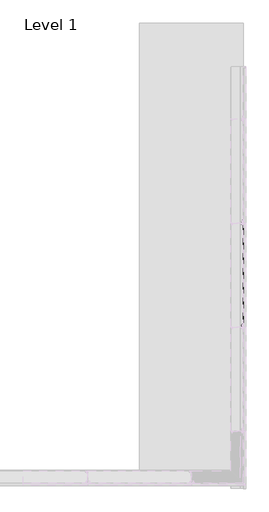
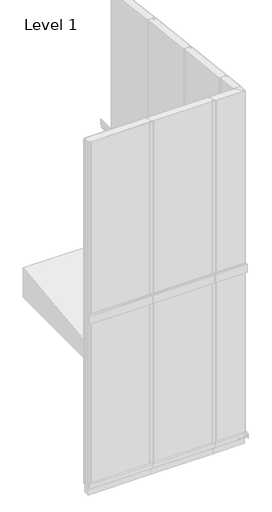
# One storey, part 7 of 12: 1 plate.
"""IFC4 building model written with IfcOpenShell, lengths in millimetres."""

from ifc_helpers import new_model, si_unit, frame, origin, place, context, project, spatial, polyline, circle_curve, ellipse_curve, element, save
from ifc_brep_helpers import plane_surface, cylinder_surface, revolved_surface, advanced_brep

model = new_model("IFC4")

# Units and contexts
model_context = context("Model", 3, world=origin())
ifc_project = project(units=[si_unit("LENGTHUNIT", "METRE", prefix="MILLI")], contexts=[model_context])

# Site, building, storey
site = spatial("IfcSite", under=ifc_project)
building = spatial("IfcBuilding", under=site)
storey = spatial("IfcBuildingStorey", under=building, Name="Level 1", Elevation=0.0)

# Plate
placement = place(None, origin())
element("IfcPlate", 1, ObjectType="TR_C_V_FHL_Panel : 120/RAL9006/RAL9002", at=placement, inside=storey, context=model_context, shape_type="AdvancedBrep", body=[
    advanced_brep(
    [(-3994.9155057, 6494.7075287, 2980.0), (-3994.9155057, 5506.1698321, 2980.0), (-3995.4720028, 5504.8263292, 2980.0), (-4000.2954046, 5500.0029273, 2980.0), (-4001.1155057, 5498.0230283, 2980.0), (-4001.1155057, 5495.2069118, 2980.0), (-4003.0155057, 5493.3069118, 2980.0), (-4008.9155057, 5493.3069118, 2980.0), (-4011.7155057, 5490.5069118, 2980.0), (-4011.7155057, 5471.3719831, 2980.0), (-4010.6206993, 5458.8582889, 2980.0), (-4002.8538462, 5457.9046392, 2980.0), (-4002.544232, 5458.8038241, 2980.0), (-4003.3006468, 5459.0642787, 2980.0), (-4003.610261, 5458.1650937, 2980.0), (-4009.8237435, 5458.9280134, 2980.0), (-4010.9155057, 5471.4069118, 2980.0), (-4010.9155057, 5490.5069118, 2980.0), (-4008.9155057, 5492.5069118, 2980.0), (-4003.0155057, 5492.5069118, 2980.0), (-4000.3155057, 5495.2069118, 2980.0), (-4000.3155057, 5498.0230283, 2980.0), (-3999.7297192, 5499.4372419, 2980.0), (-3994.9063173, 5504.2606438, 2980.0), (-3994.1155057, 5506.1698321, 2980.0), (-3994.1155057, 6494.7075287, 2980.0), (-3994.9741101, 6496.6821837, 2980.0), (-3996.9197088, 6498.4964839, 2980.0), (-4000.1155057, 6497.1069118, 2980.0), (-4000.1155057, 6464.7801836, 2980.0), (-4000.2517092, 6463.9662632, 2980.0), (-4002.5909089, 6457.1727339, 2980.0), (-4010.5519334, 6458.1502248, 2980.0), (-4011.4158468, 6468.0248012, 2980.0), (-4013.9063336, 6470.3069118, 2980.0), (-4014.9155057, 6470.3069118, 2980.0), (-4014.9155057, 6469.5069118, 2980.0), (-4013.9063336, 6469.5069118, 2980.0), (-4012.2128026, 6467.9550766, 2980.0), (-4011.3488891, 6458.0805002, 2980.0), (-4001.8344941, 6456.9122794, 2980.0), (-3999.4952944, 6463.7058087, 2980.0), (-3999.3155057, 6464.7801836, 2980.0), (-3999.3155057, 6497.1069118, 2980.0), (-3997.4653075, 6497.9114009, 2980.0), (-3995.5197088, 6496.0971008, 2980.0), (-3994.1155057, 5506.1698321, 314.7166186), (-3994.1155057, 6494.7075287, 429.6628624), (-3994.9155057, 6494.7075287, 429.6628624), (-3994.9155057, 5506.1698321, 314.7166186), (-3995.4720028, 5504.8263292, 314.5603973), (-4000.2954046, 5500.0029273, 313.9995367), (-4001.1155057, 5498.0230283, 313.7693158), (-4001.1155057, 5495.2069118, 313.4418604), (-4003.0155057, 5493.3069118, 313.2209302), (-4008.9155057, 5493.3069118, 313.2209302), (-4011.7155057, 5490.5069118, 312.8953488), (-4011.7155057, 5471.3719831, 310.6703571), (-4010.6206993, 5458.8582889, 309.2152764), (-4002.8538462, 5457.9046392, 309.1043869), (-4002.544232, 5458.8038241, 309.2089433), (-4003.3006468, 5459.0642787, 309.2392287), (-4003.610261, 5458.1650937, 309.1346723), (-4009.8237435, 5458.9280134, 309.2233839), (-4010.9155057, 5471.4069118, 310.6744186), (-4010.9155057, 5490.5069118, 312.8953488), (-4008.9155057, 5492.5069118, 313.1279069), (-4003.0155057, 5492.5069118, 313.1279069), (-4000.3155057, 5495.2069118, 313.4418604), (-4000.3155057, 5498.0230283, 313.7693158), (-3999.7297192, 5499.4372419, 313.9337593), (-3994.9063173, 5504.2606438, 314.49462), (-3994.9741101, 6496.6821837, 429.8924734), (-3996.9197088, 6498.4964839, 430.1034386), (-4000.1155057, 6497.1069118, 429.9418604), (-4000.1155057, 6464.7801836, 426.1829385), (-4000.2517092, 6463.9662632, 426.0882966), (-4002.5909089, 6457.1727339, 425.2983514), (-4010.5519334, 6458.1502248, 425.4120131), (-4011.4158468, 6468.0248012, 426.5602197), (-4013.9063336, 6470.3069118, 426.8255814), (-4014.9155057, 6470.3069118, 426.8255814), (-4014.9155057, 6469.5069118, 426.7325581), (-4013.9063336, 6469.5069118, 426.7325581), (-4012.2128026, 6467.9550766, 426.5521121), (-4011.3488891, 6458.0805002, 425.4039056), (-4001.8344941, 6456.9122794, 425.268066), (-3999.4952944, 6463.7058087, 426.0580112), (-3999.3155057, 6464.7801836, 426.1829385), (-3999.3155057, 6497.1069118, 429.9418604), (-3997.4653075, 6497.9114009, 430.0354057), (-3995.5197088, 6496.0971008, 429.8244405)],
    [
        (0, 1),
        (1, 2, circle_curve(frame((-3996.8155057, 5506.1698321, 2980.0), z_axis=(0.0, 0.0, -1.0), x_axis=(0.0, -1.0, 0.0)), 1.9)),
        (2, 3),
        (3, 4, circle_curve(frame((-3998.3155057, 5498.0230283, 2980.0), z_axis=(0.0, 0.0, 1.0), x_axis=(0.0, -1.0, 0.0)), 2.8)),
        (4, 5),
        (5, 6, circle_curve(frame((-4003.0155057, 5495.2069118, 2980.0), z_axis=(0.0, 0.0, -1.0), x_axis=(0.0, -1.0, 0.0)), 1.9)),
        (6, 7),
        (7, 8, circle_curve(frame((-4008.9155057, 5490.5069118, 2980.0), z_axis=(0.0, 0.0, 1.0), x_axis=(0.0, -1.0, 0.0)), 2.8)),
        (8, 9),
        (9, 10),
        (10, 11, circle_curve(frame((-4006.6359205, 5459.2069118, 2980.0), z_axis=(0.0, 0.0, 1.0), x_axis=(0.0, -1.0, 0.0)), 4.0)),
        (11, 12),
        (12, 13),
        (13, 14),
        (14, 15, circle_curve(frame((-4006.6359205, 5459.2069118, 2980.0), z_axis=(0.0, 0.0, -1.0), x_axis=(0.0, -1.0, 0.0)), 3.2)),
        (15, 16),
        (16, 17),
        (17, 18, circle_curve(frame((-4008.9155057, 5490.5069118, 2980.0), z_axis=(0.0, 0.0, -1.0), x_axis=(0.0, -1.0, 0.0)), 2.0)),
        (18, 19),
        (19, 20, circle_curve(frame((-4003.0155057, 5495.2069118, 2980.0), z_axis=(0.0, 0.0, 1.0), x_axis=(0.0, -1.0, 0.0)), 2.7)),
        (20, 21),
        (21, 22, circle_curve(frame((-3998.3155057, 5498.0230283, 2980.0), z_axis=(0.0, 0.0, -1.0), x_axis=(0.0, -1.0, 0.0)), 2.0)),
        (22, 23),
        (23, 24, circle_curve(frame((-3996.8155057, 5506.1698321, 2980.0), z_axis=(0.0, 0.0, 1.0), x_axis=(0.0, -1.0, 0.0)), 2.7)),
        (24, 25),
        (25, 26, circle_curve(frame((-3996.8155057, 6494.7075287, 2980.0), z_axis=(0.0, 0.0, 1.0), x_axis=(0.0, -1.0, 0.0)), 2.7)),
        (26, 27),
        (27, 28, circle_curve(frame((-3998.2155057, 6497.1069118, 2980.0), z_axis=(0.0, 0.0, 1.0), x_axis=(0.0, -1.0, 0.0)), 1.9)),
        (28, 29),
        (29, 30, circle_curve(frame((-4002.6155057, 6464.7801836, 2980.0), z_axis=(0.0, 0.0, -1.0), x_axis=(0.0, -1.0, 0.0)), 2.5)),
        (30, 31),
        (31, 32, circle_curve(frame((-4006.4675351, 6458.5075634, 2980.0), z_axis=(0.0, 0.0, -1.0), x_axis=(0.0, -1.0, 0.0)), 4.1)),
        (32, 33),
        (33, 34, circle_curve(frame((-4013.9063336, 6467.8069118, 2980.0), z_axis=(0.0, 0.0, 1.0), x_axis=(0.0, -1.0, 0.0)), 2.5)),
        (34, 35),
        (35, 36),
        (36, 37),
        (37, 38, circle_curve(frame((-4013.9063336, 6467.8069118, 2980.0), z_axis=(0.0, 0.0, -1.0), x_axis=(0.0, -1.0, 0.0)), 1.7)),
        (38, 39),
        (39, 40, circle_curve(frame((-4006.4675351, 6458.5075634, 2980.0), z_axis=(0.0, 0.0, 1.0), x_axis=(0.0, -1.0, 0.0)), 4.9)),
        (40, 41),
        (41, 42, circle_curve(frame((-4002.6155057, 6464.7801836, 2980.0), z_axis=(0.0, 0.0, 1.0), x_axis=(0.0, -1.0, 0.0)), 3.3)),
        (42, 43),
        (43, 44, circle_curve(frame((-3998.2155057, 6497.1069118, 2980.0), z_axis=(0.0, 0.0, -1.0), x_axis=(0.0, -1.0, 0.0)), 1.1)),
        (44, 45),
        (45, 0, circle_curve(frame((-3996.8155057, 6494.7075287, 2980.0), z_axis=(0.0, 0.0, -1.0), x_axis=(0.0, -1.0, 0.0)), 1.9)),
        (24, 46),
        (46, 47),
        (47, 25),
        (0, 48),
        (48, 49),
        (49, 1),
        (49, 50, ellipse_curve(frame((-3996.8155057, 5506.1698321, 314.7166186), z_axis=(0.0, 0.11550085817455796, -0.9933073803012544), x_axis=(0.0, -0.9933073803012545, -0.11550085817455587)), 1.9128017, 1.9)),
        (50, 2),
        (50, 51),
        (51, 3),
        (51, 52, ellipse_curve(frame((-3998.3155057, 5498.0230283, 313.7693158), z_axis=(0.0, -0.11550085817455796, 0.9933073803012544), x_axis=(0.0, 0.9933073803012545, 0.11550085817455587)), 2.8188656, 2.8)),
        (52, 4),
        (52, 53),
        (53, 5),
        (53, 54, ellipse_curve(frame((-4003.0155057, 5495.2069118, 313.4418604), z_axis=(0.0, 0.11550085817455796, -0.9933073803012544), x_axis=(0.0, -0.9933073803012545, -0.11550085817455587)), 1.9128017, 1.9)),
        (54, 6),
        (54, 55),
        (55, 7),
        (55, 56, ellipse_curve(frame((-4008.9155057, 5490.5069118, 312.8953488), z_axis=(0.0, -0.11550085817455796, 0.9933073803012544), x_axis=(0.0, 0.9933073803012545, 0.11550085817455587)), 2.8188656, 2.8)),
        (56, 8),
        (56, 57),
        (57, 9),
        (57, 58),
        (58, 10),
        (58, 59, ellipse_curve(frame((-4006.6359205, 5459.2069118, 309.2558139), z_axis=(0.0, -0.11550085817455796, 0.9933073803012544), x_axis=(0.0, 0.9933073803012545, 0.11550085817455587)), 4.0269509, 4.0)),
        (59, 11),
        (59, 60),
        (60, 12),
        (60, 61),
        (61, 13),
        (61, 62),
        (62, 14),
        (62, 63, ellipse_curve(frame((-4006.6359205, 5459.2069118, 309.2558139), z_axis=(0.0, 0.11550085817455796, -0.9933073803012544), x_axis=(0.0, -0.9933073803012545, -0.11550085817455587)), 3.2215607, 3.2)),
        (63, 15),
        (63, 64),
        (64, 16),
        (64, 65),
        (65, 17),
        (65, 66, ellipse_curve(frame((-4008.9155057, 5490.5069118, 312.8953488), z_axis=(0.0, 0.11550085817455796, -0.9933073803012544), x_axis=(0.0, -0.9933073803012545, -0.11550085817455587)), 2.0134754, 2.0)),
        (66, 18),
        (66, 67),
        (67, 19),
        (67, 68, ellipse_curve(frame((-4003.0155057, 5495.2069118, 313.4418604), z_axis=(0.0, -0.11550085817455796, 0.9933073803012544), x_axis=(0.0, 0.9933073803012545, 0.11550085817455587)), 2.7181918, 2.7)),
        (68, 20),
        (68, 69),
        (69, 21),
        (69, 70, ellipse_curve(frame((-3998.3155057, 5498.0230283, 313.7693158), z_axis=(0.0, 0.11550085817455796, -0.9933073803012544), x_axis=(0.0, -0.9933073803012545, -0.11550085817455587)), 2.0134754, 2.0)),
        (70, 22),
        (70, 71),
        (71, 23),
        (71, 46, ellipse_curve(frame((-3996.8155057, 5506.1698321, 314.7166186), z_axis=(0.0, -0.11550085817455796, 0.9933073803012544), x_axis=(0.0, 0.9933073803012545, 0.11550085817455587)), 2.7181918, 2.7)),
        (47, 72, ellipse_curve(frame((-3996.8155057, 6494.7075287, 429.6628624), z_axis=(0.0, -0.11550085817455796, 0.9933073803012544), x_axis=(0.0, 0.9933073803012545, 0.11550085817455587)), 2.7181918, 2.7)),
        (72, 26),
        (72, 73),
        (73, 27),
        (73, 74, ellipse_curve(frame((-3998.2155057, 6497.1069118, 429.9418604), z_axis=(0.0, -0.11550085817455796, 0.9933073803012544), x_axis=(0.0, 0.9933073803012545, 0.11550085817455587)), 1.9128017, 1.9)),
        (74, 28),
        (74, 75),
        (75, 29),
        (75, 76, ellipse_curve(frame((-4002.6155057, 6464.7801836, 426.1829385), z_axis=(0.0, 0.11550085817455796, -0.9933073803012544), x_axis=(0.0, -0.9933073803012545, -0.11550085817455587)), 2.5168443, 2.5)),
        (76, 30),
        (76, 77),
        (77, 31),
        (77, 78, ellipse_curve(frame((-4006.4675351, 6458.5075634, 425.4535641), z_axis=(0.0, 0.11550085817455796, -0.9933073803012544), x_axis=(0.0, -0.9933073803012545, -0.11550085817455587)), 4.1276246, 4.1)),
        (78, 32),
        (78, 79),
        (79, 33),
        (79, 80, ellipse_curve(frame((-4013.9063336, 6467.8069118, 426.5348837), z_axis=(0.0, -0.11550085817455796, 0.9933073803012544), x_axis=(0.0, 0.9933073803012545, 0.11550085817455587)), 2.5168443, 2.5)),
        (80, 34),
        (80, 81),
        (81, 35),
        (81, 82),
        (82, 36),
        (82, 83),
        (83, 37),
        (83, 84, ellipse_curve(frame((-4013.9063336, 6467.8069118, 426.5348837), z_axis=(0.0, 0.11550085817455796, -0.9933073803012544), x_axis=(0.0, -0.9933073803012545, -0.11550085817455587)), 1.7114541, 1.7)),
        (84, 38),
        (84, 85),
        (85, 39),
        (85, 86, ellipse_curve(frame((-4006.4675351, 6458.5075634, 425.4535641), z_axis=(0.0, -0.11550085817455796, 0.9933073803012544), x_axis=(0.0, 0.9933073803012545, 0.11550085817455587)), 4.9330148, 4.9)),
        (86, 40),
        (86, 87),
        (87, 41),
        (87, 88, ellipse_curve(frame((-4002.6155057, 6464.7801836, 426.1829385), z_axis=(0.0, -0.11550085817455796, 0.9933073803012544), x_axis=(0.0, 0.9933073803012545, 0.11550085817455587)), 3.3222345, 3.3)),
        (88, 42),
        (88, 89),
        (89, 43),
        (89, 90, ellipse_curve(frame((-3998.2155057, 6497.1069118, 429.9418604), z_axis=(0.0, 0.11550085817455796, -0.9933073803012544), x_axis=(0.0, -0.9933073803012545, -0.11550085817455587)), 1.1074115, 1.1)),
        (90, 44),
        (90, 91),
        (91, 45),
        (91, 48, ellipse_curve(frame((-3996.8155057, 6494.7075287, 429.6628624), z_axis=(0.0, 0.11550085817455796, -0.9933073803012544), x_axis=(0.0, -0.9933073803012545, -0.11550085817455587)), 1.9128017, 1.9)),
    ],
    [
        plane_surface(frame((-3994.9155057, 5485.2850853, 2980.0), z_axis=(0.0, 0.0, 1.0), x_axis=(0.0, -1.0, 0.0))),
        plane_surface(frame((-3994.1155057, 5506.1698321, 2980.0), z_axis=(1.0, 0.0, 0.0), x_axis=(0.0, 0.0, -1.0))),
        plane_surface(frame((-3994.9155057, 6494.7075287, 2980.0), z_axis=(-1.0, 0.0, 0.0), x_axis=(0.0, 0.0, -1.0))),
        revolved_surface(polyline([(-3996.8155057, 5504.269832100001, 314.4956883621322), (-3996.8155057, 5504.269832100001, 2980.0)]), (-3996.8155057, 5506.1698321, 150.0), (0.0, 0.0, -1.0)),
        plane_surface(frame((-3995.4720028, 5504.8263292, 2980.0), z_axis=(-0.7071067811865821, 0.7071067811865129, 0.0), x_axis=(0.0, 0.0, -1.0))),
        cylinder_surface(frame((-3998.3155057, 5498.0230283, 150.0), z_axis=(0.0, 0.0, 1.0), x_axis=(0.0, -1.0, 0.0)), 2.8),
        plane_surface(frame((-4001.1155057, 5498.0230283, 2980.0), z_axis=(-1.0, 0.0, 0.0), x_axis=(0.0, 0.0, -1.0))),
        revolved_surface(polyline([(-4003.0155057, 5493.3069118, 313.2209301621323), (-4003.0155057, 5493.3069118, 2980.0)]), (-4003.0155057, 5495.2069118, 150.0), (0.0, 0.0, -1.0)),
        plane_surface(frame((-4003.0155057, 5493.3069118, 2980.0), z_axis=(0.0, 1.0, 0.0), x_axis=(0.0, 0.0, -1.0))),
        cylinder_surface(frame((-4008.9155057, 5490.5069118, 150.0), z_axis=(0.0, 0.0, 1.0), x_axis=(0.0, -1.0, 0.0)), 2.8),
        plane_surface(frame((-4011.7155057, 5490.5069118, 2980.0), z_axis=(-1.0, 0.0, 0.0), x_axis=(0.0, 0.0, -1.0))),
        plane_surface(frame((-4011.7155057, 5471.3719831, 2980.0), z_axis=(-0.9961946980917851, -0.08715574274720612, 0.0), x_axis=(0.0, 0.0, -1.0))),
        cylinder_surface(frame((-4006.6359205, 5459.2069118, 150.0), z_axis=(0.0, 0.0, 1.0), x_axis=(0.0, -1.0, 0.0)), 4.0),
        plane_surface(frame((-4002.8538462, 5457.9046392, 2980.0), z_axis=(0.9455185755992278, -0.32556815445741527, 0.0), x_axis=(0.0, 0.0, -1.0))),
        plane_surface(frame((-4002.544232, 5458.8038241, 2980.0), z_axis=(0.325568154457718, 0.9455185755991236, 0.0), x_axis=(0.0, 0.0, -1.0))),
        plane_surface(frame((-4003.3006468, 5459.0642787, 2980.0), z_axis=(-0.9455185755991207, 0.32556815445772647, 0.0), x_axis=(0.0, 0.0, -1.0))),
        revolved_surface(polyline([(-4006.6359205, 5456.0069118, 308.88372087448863), (-4006.6359205, 5456.0069118, 2980.0)]), (-4006.6359205, 5459.2069118, 150.0), (0.0, 0.0, -1.0)),
        plane_surface(frame((-4009.8237435, 5458.9280134, 2980.0), z_axis=(0.9961946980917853, 0.08715574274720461, 0.0), x_axis=(0.0, 0.0, -1.0))),
        plane_surface(frame((-4010.9155057, 5471.4069118, 2980.0), z_axis=(1.0, 0.0, 0.0), x_axis=(0.0, 0.0, -1.0))),
        revolved_surface(polyline([(-4008.9155057, 5488.5069118, 312.66279066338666), (-4008.9155057, 5488.5069118, 2980.0)]), (-4008.9155057, 5490.5069118, 150.0), (0.0, 0.0, -1.0)),
        plane_surface(frame((-4008.9155057, 5492.5069118, 2980.0), z_axis=(0.0, -1.0, 0.0), x_axis=(0.0, 0.0, -1.0))),
        cylinder_surface(frame((-4003.0155057, 5495.2069118, 150.0), z_axis=(0.0, 0.0, 1.0), x_axis=(0.0, -1.0, 0.0)), 2.7),
        plane_surface(frame((-4000.3155057, 5495.2069118, 2980.0), z_axis=(1.0, 0.0, 0.0), x_axis=(0.0, 0.0, -1.0))),
        revolved_surface(polyline([(-3998.3155057, 5496.0230283, 313.53675766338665), (-3998.3155057, 5496.0230283, 2980.0)]), (-3998.3155057, 5498.0230283, 150.0), (0.0, 0.0, -1.0)),
        plane_surface(frame((-3999.7297192, 5499.4372419, 2980.0), z_axis=(0.7071067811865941, -0.707106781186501, 0.0), x_axis=(0.0, 0.0, -1.0))),
        cylinder_surface(frame((-3996.8155057, 5506.1698321, 150.0), z_axis=(0.0, 0.0, 1.0), x_axis=(0.0, -1.0, 0.0)), 2.7),
        cylinder_surface(frame((-3996.8155057, 6494.7075287, 150.0), z_axis=(0.0, 0.0, 1.0), x_axis=(0.0, -1.0, 0.0)), 2.7),
        plane_surface(frame((-3994.9741101, 6496.6821837, 2980.0), z_axis=(0.6819983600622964, 0.7313537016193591, 0.0), x_axis=(0.0, 0.0, -1.0))),
        cylinder_surface(frame((-3998.2155057, 6497.1069118, 150.0), z_axis=(0.0, 0.0, 1.0), x_axis=(0.0, -1.0, 0.0)), 1.9),
        plane_surface(frame((-4000.1155057, 6497.1069118, 2980.0), z_axis=(-1.0, 0.0, 0.0), x_axis=(0.0, 0.0, -1.0))),
        revolved_surface(polyline([(-4002.6155057, 6462.2801836, 425.8922408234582), (-4002.6155057, 6462.2801836, 2980.0)]), (-4002.6155057, 6464.7801836, 150.0), (0.0, 0.0, -1.0)),
        plane_surface(frame((-4000.2517092, 6463.9662632, 2980.0), z_axis=(-0.9455185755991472, 0.3255681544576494, 0.0), x_axis=(0.0, 0.0, -1.0))),
        revolved_surface(polyline([(-4006.4675351, 6454.4075634, 424.9768199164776), (-4006.4675351, 6454.4075634, 2980.0)]), (-4006.4675351, 6458.5075634, 150.0), (0.0, 0.0, -1.0)),
        plane_surface(frame((-4010.5519334, 6458.1502248, 2980.0), z_axis=(0.9961946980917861, 0.08715574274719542, 0.0), x_axis=(0.0, 0.0, -1.0))),
        cylinder_surface(frame((-4013.9063336, 6467.8069118, 150.0), z_axis=(0.0, 0.0, 1.0), x_axis=(0.0, -1.0, 0.0)), 2.5),
        plane_surface(frame((-4013.9063336, 6470.3069118, 2980.0), z_axis=(0.0, 1.0, 0.0), x_axis=(0.0, 0.0, -1.0))),
        plane_surface(frame((-4014.9155057, 6470.3069118, 2980.0), z_axis=(-1.0, 0.0, 0.0), x_axis=(0.0, 0.0, -1.0))),
        plane_surface(frame((-4014.9155057, 6469.5069118, 2980.0), z_axis=(0.0, -1.0, 0.0), x_axis=(0.0, 0.0, -1.0))),
        revolved_surface(polyline([(-4013.9063336, 6466.1069118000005, 426.3372092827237), (-4013.9063336, 6466.1069118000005, 2980.0)]), (-4013.9063336, 6467.8069118, 150.0), (0.0, 0.0, -1.0)),
        plane_surface(frame((-4012.2128026, 6467.9550766, 2980.0), z_axis=(-0.9961946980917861, -0.08715574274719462, 0.0), x_axis=(0.0, 0.0, -1.0))),
        cylinder_surface(frame((-4006.4675351, 6458.5075634, 150.0), z_axis=(0.0, 0.0, 1.0), x_axis=(0.0, -1.0, 0.0)), 4.9),
        plane_surface(frame((-4001.8344941, 6456.9122794, 2980.0), z_axis=(0.9455185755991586, -0.3255681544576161, 0.0), x_axis=(0.0, 0.0, -1.0))),
        cylinder_surface(frame((-4002.6155057, 6464.7801836, 150.0), z_axis=(0.0, 0.0, 1.0), x_axis=(0.0, -1.0, 0.0)), 3.3),
        plane_surface(frame((-3999.3155057, 6464.7801836, 2980.0), z_axis=(1.0, 0.0, 0.0), x_axis=(0.0, 0.0, -1.0))),
        revolved_surface(polyline([(-3998.2155057, 6496.006911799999, 429.8139534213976), (-3998.2155057, 6496.006911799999, 2980.0)]), (-3998.2155057, 6497.1069118, 150.0), (0.0, 0.0, -1.0)),
        plane_surface(frame((-3997.4653075, 6497.9114009, 2980.0), z_axis=(-0.6819983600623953, -0.7313537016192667, 0.0), x_axis=(0.0, 0.0, -1.0))),
        revolved_surface(polyline([(-3996.8155057, 6492.8075287, 429.4419321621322), (-3996.8155057, 6492.8075287, 2980.0)]), (-3996.8155057, 6494.7075287, 150.0), (0.0, 0.0, -1.0)),
        plane_surface(frame((-3994.1155057, 6239.6069121, 400.0), z_axis=(0.0, 0.11550085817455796, -0.9933073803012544), x_axis=(0.0, 0.9933073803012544, 0.11550085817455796))),
    ],
    [
        (0, [[1, 2, 3, 4, 5, 6, 7, 8, 9, 10, 11, 12, 13, 14, 15, 16, 17, 18, 19, 20, 21, 22, 23, 24, 25, 26, 27, 28, 29, 30, 31, 32, 33, 34, 35, 36, 37, 38, 39, 40, 41, 42, 43, 44, 45, 46]]),
        (1, [[-25, 47, 48, 49]]),
        (2, [[-1, 50, 51, 52]]),
        (3, [[-2, -52, 53, 54]]),
        (4, [[-3, -54, 55, 56]]),
        (5, [[-4, -56, 57, 58]]),
        (6, [[-5, -58, 59, 60]]),
        (7, [[-6, -60, 61, 62]]),
        (8, [[-7, -62, 63, 64]]),
        (9, [[-8, -64, 65, 66]]),
        (10, [[-9, -66, 67, 68]]),
        (11, [[-10, -68, 69, 70]]),
        (12, [[-11, -70, 71, 72]]),
        (13, [[-12, -72, 73, 74]]),
        (14, [[-13, -74, 75, 76]]),
        (15, [[-14, -76, 77, 78]]),
        (16, [[-15, -78, 79, 80]]),
        (17, [[-16, -80, 81, 82]]),
        (18, [[-17, -82, 83, 84]]),
        (19, [[-18, -84, 85, 86]]),
        (20, [[-19, -86, 87, 88]]),
        (21, [[-20, -88, 89, 90]]),
        (22, [[-21, -90, 91, 92]]),
        (23, [[-22, -92, 93, 94]]),
        (24, [[-23, -94, 95, 96]]),
        (25, [[-24, -96, 97, -47]]),
        (26, [[-26, -49, 98, 99]]),
        (27, [[-27, -99, 100, 101]]),
        (28, [[-28, -101, 102, 103]]),
        (29, [[-29, -103, 104, 105]]),
        (30, [[-30, -105, 106, 107]]),
        (31, [[-31, -107, 108, 109]]),
        (32, [[-32, -109, 110, 111]]),
        (33, [[-33, -111, 112, 113]]),
        (34, [[-34, -113, 114, 115]]),
        (35, [[-35, -115, 116, 117]]),
        (36, [[-36, -117, 118, 119]]),
        (37, [[-37, -119, 120, 121]]),
        (38, [[-38, -121, 122, 123]]),
        (39, [[-39, -123, 124, 125]]),
        (40, [[-40, -125, 126, 127]]),
        (41, [[-41, -127, 128, 129]]),
        (42, [[-42, -129, 130, 131]]),
        (43, [[-43, -131, 132, 133]]),
        (44, [[-44, -133, 134, 135]]),
        (45, [[-45, -135, 136, 137]]),
        (46, [[-46, -137, 138, -50]]),
        (47, [[-48, -97, -95, -93, -91, -89, -87, -85, -83, -81, -79, -77, -75, -73, -71, -69, -67, -65, -63, -61, -59, -57, -55, -53, -51, -138, -136, -134, -132, -130, -128, -126, -124, -122, -120, -118, -116, -114, -112, -110, -108, -106, -104, -102, -100, -98]]),
    ],
),
    advanced_brep(
    [(-4113.3155057, 6449.7069118, 2980.0), (-4113.3155057, 5479.7850864, 2980.0), (-4112.6711406, 5478.2294515, 2980.0), (-4108.2820533, 5473.8403642, 2980.0), (-4107.3155057, 5471.5069118, 2980.0), (-4107.3155057, 5469.6069118, 2980.0), (-4011.5610819, 5469.6069118, 2980.0), (-4011.7155057, 5471.3719831, 2980.0), (-4011.7155057, 5490.5069118, 2980.0), (-4008.9155057, 5493.3069118, 2980.0), (-4003.0155057, 5493.3069118, 2980.0), (-4001.1155057, 5495.2069118, 2980.0), (-4001.1155057, 5498.0230283, 2980.0), (-4000.2954046, 5500.0029273, 2980.0), (-3995.4720028, 5504.8263292, 2980.0), (-3994.9155057, 5506.1698321, 2980.0), (-3994.9155057, 6453.6075634, 2980.0), (-4006.4675351, 6453.6075634, 2980.0), (-4011.3488891, 6458.0805002, 2980.0), (-4012.2128026, 6467.9550766, 2980.0), (-4013.9063336, 6469.5069118, 2980.0), (-4014.9155057, 6469.6069118, 2980.0), (-4088.9755057, 6469.6069118, 2980.0), (-4088.9755057, 6461.7069118, 2980.0), (-4096.5080645, 6461.7069118, 2980.0), (-4099.4132474, 6459.2691739, 2980.0), (-4100.4800727, 6453.2189071, 2980.0), (-4104.6655057, 6449.7069118, 2980.0), (-4113.3155057, 6449.7069118, 424.4302325), (-4113.3155057, 5479.7850864, 311.6486249), (-4112.6711406, 5478.2294515, 311.4677371), (-4108.2820533, 5473.8403642, 310.9573781), (-4107.3155057, 5471.5069118, 310.6860465), (-4107.3155057, 5469.6069118, 310.4651162), (-4011.5610819, 5469.6069118, 310.4651162), (-4011.7155057, 5471.3719831, 310.6703571), (-4011.7155057, 5490.5069118, 312.8953488), (-4008.9155057, 5493.3069118, 313.2209302), (-4003.0155057, 5493.3069118, 313.2209302), (-4001.1155057, 5495.2069118, 313.4418604), (-4001.1155057, 5498.0230283, 313.7693158), (-4000.2954046, 5500.0029273, 313.9995367), (-3995.4720028, 5504.8263292, 314.5603973), (-3994.9155057, 5506.1698321, 314.7166186), (-3994.9155057, 6453.6075634, 424.8837967), (-4006.4675351, 6453.6075634, 424.8837967), (-4011.3488891, 6458.0805002, 425.4039056), (-4012.2128026, 6467.9550766, 426.5521121), (-4013.9063336, 6469.5069118, 426.7325581), (-4014.9155057, 6469.6069118, 426.744186), (-4088.9755057, 6469.6069118, 426.744186), (-4088.9755057, 6461.7069118, 425.8255814), (-4096.5080645, 6461.7069118, 425.8255814), (-4099.4132474, 6459.2691739, 425.5421235), (-4100.4800727, 6453.2189071, 424.8386041), (-4104.6655057, 6449.7069118, 424.4302325)],
    [
        (0, 1),
        (1, 2, circle_curve(frame((-4111.1155057, 5479.7850864, 2980.0), z_axis=(0.0, 0.0, 1.0), x_axis=(0.0, -1.0, 0.0)), 2.2)),
        (2, 3),
        (3, 4, circle_curve(frame((-4110.6155057, 5471.5069118, 2980.0), z_axis=(0.0, 0.0, -1.0), x_axis=(0.0, -1.0, 0.0)), 3.3)),
        (4, 5),
        (5, 6),
        (6, 7),
        (7, 8),
        (8, 9, circle_curve(frame((-4008.9155057, 5490.5069118, 2980.0), z_axis=(0.0, 0.0, -1.0), x_axis=(0.0, -1.0, 0.0)), 2.8)),
        (9, 10),
        (10, 11, circle_curve(frame((-4003.0155057, 5495.2069118, 2980.0), z_axis=(0.0, 0.0, 1.0), x_axis=(0.0, -1.0, 0.0)), 1.9)),
        (11, 12),
        (12, 13, circle_curve(frame((-3998.3155057, 5498.0230283, 2980.0), z_axis=(0.0, 0.0, -1.0), x_axis=(0.0, -1.0, 0.0)), 2.8)),
        (13, 14),
        (14, 15, circle_curve(frame((-3996.8155057, 5506.1698321, 2980.0), z_axis=(0.0, 0.0, 1.0), x_axis=(0.0, -1.0, 0.0)), 1.9)),
        (15, 16),
        (16, 17),
        (17, 18, circle_curve(frame((-4006.4675351, 6458.5075634, 2980.0), z_axis=(0.0, 0.0, -1.0), x_axis=(0.0, -1.0, 0.0)), 4.9)),
        (18, 19),
        (19, 20, circle_curve(frame((-4013.9063336, 6467.8069118, 2980.0), z_axis=(0.0, 0.0, 1.0), x_axis=(0.0, -1.0, 0.0)), 1.7)),
        (20, 21),
        (21, 22),
        (22, 23),
        (23, 24),
        (24, 25, circle_curve(frame((-4096.5080645, 6458.7569118, 2980.0), z_axis=(0.0, 0.0, 1.0), x_axis=(0.0, -1.0, 0.0)), 2.95)),
        (25, 26),
        (26, 27, circle_curve(frame((-4104.6655057, 6453.9569118, 2980.0), z_axis=(0.0, 0.0, -1.0), x_axis=(0.0, -1.0, 0.0)), 4.25)),
        (27, 0),
        (0, 28),
        (28, 29),
        (29, 1),
        (29, 30, ellipse_curve(frame((-4111.1155057, 5479.7850864, 311.6486249), z_axis=(0.0, -0.11550085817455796, 0.9933073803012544), x_axis=(0.0, 0.9933073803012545, 0.11550085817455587)), 2.214823, 2.2)),
        (30, 2),
        (30, 31),
        (31, 3),
        (31, 32, ellipse_curve(frame((-4110.6155057, 5471.5069118, 310.6860465), z_axis=(0.0, 0.11550085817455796, -0.9933073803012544), x_axis=(0.0, -0.9933073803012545, -0.11550085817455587)), 3.3222345, 3.3)),
        (32, 4),
        (32, 33),
        (33, 5),
        (33, 34),
        (34, 6),
        (34, 35),
        (35, 7),
        (35, 36),
        (36, 8),
        (36, 37, ellipse_curve(frame((-4008.9155057, 5490.5069118, 312.8953488), z_axis=(0.0, 0.11550085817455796, -0.9933073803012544), x_axis=(0.0, -0.9933073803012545, -0.11550085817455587)), 2.8188656, 2.8)),
        (37, 9),
        (37, 38),
        (38, 10),
        (38, 39, ellipse_curve(frame((-4003.0155057, 5495.2069118, 313.4418604), z_axis=(0.0, -0.11550085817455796, 0.9933073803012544), x_axis=(0.0, 0.9933073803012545, 0.11550085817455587)), 1.9128017, 1.9)),
        (39, 11),
        (39, 40),
        (40, 12),
        (40, 41, ellipse_curve(frame((-3998.3155057, 5498.0230283, 313.7693158), z_axis=(0.0, 0.11550085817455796, -0.9933073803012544), x_axis=(0.0, -0.9933073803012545, -0.11550085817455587)), 2.8188656, 2.8)),
        (41, 13),
        (41, 42),
        (42, 14),
        (42, 43, ellipse_curve(frame((-3996.8155057, 5506.1698321, 314.7166186), z_axis=(0.0, -0.11550085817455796, 0.9933073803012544), x_axis=(0.0, 0.9933073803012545, 0.11550085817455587)), 1.9128017, 1.9)),
        (43, 15),
        (43, 44),
        (44, 16),
        (44, 45),
        (45, 17),
        (45, 46, ellipse_curve(frame((-4006.4675351, 6458.5075634, 425.4535641), z_axis=(0.0, 0.11550085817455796, -0.9933073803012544), x_axis=(0.0, -0.9933073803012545, -0.11550085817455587)), 4.9330148, 4.9)),
        (46, 18),
        (46, 47),
        (47, 19),
        (47, 48, ellipse_curve(frame((-4013.9063336, 6467.8069118, 426.5348837), z_axis=(0.0, -0.11550085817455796, 0.9933073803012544), x_axis=(0.0, 0.9933073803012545, 0.11550085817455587)), 1.7114541, 1.7)),
        (48, 20),
        (48, 49),
        (49, 21),
        (49, 50),
        (50, 22),
        (50, 51),
        (51, 23),
        (51, 52),
        (52, 24),
        (52, 53, ellipse_curve(frame((-4096.5080645, 6458.7569118, 425.4825581), z_axis=(0.0, -0.11550085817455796, 0.9933073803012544), x_axis=(0.0, 0.9933073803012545, 0.11550085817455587)), 2.9698763, 2.95)),
        (53, 25),
        (53, 54),
        (54, 26),
        (54, 55, ellipse_curve(frame((-4104.6655057, 6453.9569118, 424.9244186), z_axis=(0.0, 0.11550085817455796, -0.9933073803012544), x_axis=(0.0, -0.9933073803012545, -0.11550085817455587)), 4.2786353, 4.25)),
        (55, 27),
        (55, 28),
    ],
    [
        plane_surface(frame((-4113.3155057, 5479.7850864, 2980.0), z_axis=(0.0, 0.0, 1.0), x_axis=(0.0, -1.0, 0.0))),
        plane_surface(frame((-4113.3155057, 6449.7069118, 2980.0), z_axis=(-1.0, 0.0, 0.0), x_axis=(0.0, 0.0, -1.0))),
        cylinder_surface(frame((-4111.1155057, 5479.7850864, 150.0), z_axis=(0.0, 0.0, 1.0), x_axis=(0.0, -1.0, 0.0)), 2.2),
        plane_surface(frame((-4112.6711406, 5478.2294515, 2980.0), z_axis=(-0.7071067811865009, -0.7071067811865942, 0.0), x_axis=(0.0, 0.0, -1.0))),
        revolved_surface(polyline([(-4110.6155057, 5468.2069118, 310.30232556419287), (-4110.6155057, 5468.2069118, 2980.0)]), (-4110.6155057, 5471.5069118, 150.0), (0.0, 0.0, -1.0)),
        plane_surface(frame((-4107.3155057, 5471.5069118, 2980.0), z_axis=(-1.0, 0.0, 0.0), x_axis=(0.0, 0.0, -1.0))),
        plane_surface(frame((-4107.3155057, 5469.6069118, 2980.0), z_axis=(0.0, -1.0, 0.0), x_axis=(0.0, 0.0, -1.0))),
        plane_surface(frame((-4011.5610819, 5469.6069118, 2980.0), z_axis=(0.9961946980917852, 0.08715574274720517, 0.0), x_axis=(0.0, 0.0, -1.0))),
        plane_surface(frame((-4011.7155057, 5471.3719831, 2980.0), z_axis=(1.0, 0.0, 0.0), x_axis=(0.0, 0.0, -1.0))),
        revolved_surface(polyline([(-4008.9155057, 5487.7069118, 312.5697674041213), (-4008.9155057, 5487.7069118, 2980.0)]), (-4008.9155057, 5490.5069118, 150.0), (0.0, 0.0, -1.0)),
        plane_surface(frame((-4008.9155057, 5493.3069118, 2980.0), z_axis=(0.0, -1.0, 0.0), x_axis=(0.0, 0.0, -1.0))),
        cylinder_surface(frame((-4003.0155057, 5495.2069118, 150.0), z_axis=(0.0, 0.0, 1.0), x_axis=(0.0, -1.0, 0.0)), 1.9),
        plane_surface(frame((-4001.1155057, 5495.2069118, 2980.0), z_axis=(1.0, 0.0, 0.0), x_axis=(0.0, 0.0, -1.0))),
        revolved_surface(polyline([(-3998.3155057, 5495.2230283, 313.4437344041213), (-3998.3155057, 5495.2230283, 2980.0)]), (-3998.3155057, 5498.0230283, 150.0), (0.0, 0.0, -1.0)),
        plane_surface(frame((-4000.2954046, 5500.0029273, 2980.0), z_axis=(0.707106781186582, -0.7071067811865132, 0.0), x_axis=(0.0, 0.0, -1.0))),
        cylinder_surface(frame((-3996.8155057, 5506.1698321, 150.0), z_axis=(0.0, 0.0, 1.0), x_axis=(0.0, -1.0, 0.0)), 1.9),
        plane_surface(frame((-3994.9155057, 5506.1698321, 2980.0), z_axis=(1.0, 0.0, 0.0), x_axis=(0.0, 0.0, -1.0))),
        plane_surface(frame((-3994.9155057, 6453.6075634, 2980.0), z_axis=(0.0, 1.0, 0.0), x_axis=(0.0, 0.0, -1.0))),
        revolved_surface(polyline([(-4006.4675351, 6453.607563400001, 424.8837966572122), (-4006.4675351, 6453.607563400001, 2980.0)]), (-4006.4675351, 6458.5075634, 150.0), (0.0, 0.0, -1.0)),
        plane_surface(frame((-4011.3488891, 6458.0805002, 2980.0), z_axis=(0.9961946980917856, 0.08715574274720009, 0.0), x_axis=(0.0, 0.0, -1.0))),
        cylinder_surface(frame((-4013.9063336, 6467.8069118, 150.0), z_axis=(0.0, 0.0, 1.0), x_axis=(0.0, -1.0, 0.0)), 1.7),
        plane_surface(frame((-4013.9063336, 6469.5069118, 2980.0), z_axis=(0.0986081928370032, 0.9951263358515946, 0.0), x_axis=(0.0, 0.0, -1.0))),
        plane_surface(frame((-4014.9155057, 6469.6069118, 2980.0), z_axis=(0.0, 1.0, 0.0), x_axis=(0.0, 0.0, -1.0))),
        plane_surface(frame((-4088.9755057, 6469.6069118, 2980.0), z_axis=(-1.0, 0.0, 0.0), x_axis=(0.0, 0.0, -1.0))),
        plane_surface(frame((-4088.9755057, 6461.7069118, 2980.0), z_axis=(0.0, 1.0, 0.0), x_axis=(0.0, 0.0, -1.0))),
        cylinder_surface(frame((-4096.5080645, 6458.7569118, 150.0), z_axis=(0.0, 0.0, 1.0), x_axis=(0.0, -1.0, 0.0)), 2.95),
        plane_surface(frame((-4099.4132474, 6459.2691739, 2980.0), z_axis=(-0.984807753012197, 0.1736481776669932, 0.0), x_axis=(0.0, 0.0, -1.0))),
        revolved_surface(polyline([(-4104.6655057, 6449.7069118, 424.4302325), (-4104.6655057, 6449.7069118, 2980.0)]), (-4104.6655057, 6453.9569118, 150.0), (0.0, 0.0, -1.0)),
        plane_surface(frame((-4104.6655057, 6449.7069118, 2980.0), z_axis=(0.0, 1.0, 0.0), x_axis=(0.0, 0.0, -1.0))),
        plane_surface(frame((-3994.1155057, 6239.6069121, 400.0), z_axis=(0.0, 0.11550085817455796, -0.9933073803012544), x_axis=(0.0, 0.9933073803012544, 0.11550085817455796))),
    ],
    [
        (0, [[1, 2, 3, 4, 5, 6, 7, 8, 9, 10, 11, 12, 13, 14, 15, 16, 17, 18, 19, 20, 21, 22, 23, 24, 25, 26, 27, 28]]),
        (1, [[-1, 29, 30, 31]]),
        (2, [[-2, -31, 32, 33]]),
        (3, [[-3, -33, 34, 35]]),
        (4, [[-4, -35, 36, 37]]),
        (5, [[-5, -37, 38, 39]]),
        (6, [[-6, -39, 40, 41]]),
        (7, [[-7, -41, 42, 43]]),
        (8, [[-8, -43, 44, 45]]),
        (9, [[-9, -45, 46, 47]]),
        (10, [[-10, -47, 48, 49]]),
        (11, [[-11, -49, 50, 51]]),
        (12, [[-12, -51, 52, 53]]),
        (13, [[-13, -53, 54, 55]]),
        (14, [[-14, -55, 56, 57]]),
        (15, [[-15, -57, 58, 59]]),
        (16, [[-16, -59, 60, 61]]),
        (17, [[-17, -61, 62, 63]]),
        (18, [[-18, -63, 64, 65]]),
        (19, [[-19, -65, 66, 67]]),
        (20, [[-20, -67, 68, 69]]),
        (21, [[-21, -69, 70, 71]]),
        (22, [[-22, -71, 72, 73]]),
        (23, [[-23, -73, 74, 75]]),
        (24, [[-24, -75, 76, 77]]),
        (25, [[-25, -77, 78, 79]]),
        (26, [[-26, -79, 80, 81]]),
        (27, [[-27, -81, 82, 83]]),
        (28, [[-28, -83, 84, -29]]),
        (29, [[-30, -84, -82, -80, -78, -76, -74, -72, -70, -68, -66, -64, -62, -60, -58, -56, -54, -52, -50, -48, -46, -44, -42, -40, -38, -36, -34, -32]]),
    ],
),
    advanced_brep(
    [(-4093.1155057, 6462.5069118, 2980.0), (-4096.5080645, 6462.5069118, 2980.0), (-4100.2010936, 6459.4080925, 2980.0), (-4101.2679189, 6453.3578256, 2980.0), (-4108.1155057, 6453.9569118, 2980.0), (-4108.1155057, 6471.5569118, 2980.0), (-4111.4443639, 6472.93577, 2980.0), (-4113.3100493, 6471.0700846, 2980.0), (-4114.1155057, 6469.125541, 2980.0), (-4114.1155057, 5479.7850864, 2980.0), (-4113.236826, 5477.6637661, 2980.0), (-4108.8477387, 5473.2746788, 2980.0), (-4108.1155057, 5471.5069118, 2980.0), (-4108.1155057, 5456.7569118, 2980.0), (-4101.6648805, 5456.1925552, 2980.0), (-4100.9215675, 5460.4080925, 2980.0), (-4097.2285384, 5463.5069118, 2980.0), (-4093.1155057, 5463.5069118, 2980.0), (-4093.1155057, 5464.3069118, 2980.0), (-4097.2285384, 5464.3069118, 2980.0), (-4101.7094137, 5460.547011, 2980.0), (-4102.4527267, 5456.3314738, 2980.0), (-4107.3155057, 5456.7569118, 2980.0), (-4107.3155057, 5471.5069118, 2980.0), (-4108.2820533, 5473.8403642, 2980.0), (-4112.6711406, 5478.2294515, 2980.0), (-4113.3155057, 5479.7850864, 2980.0), (-4113.3155057, 6469.125541, 2980.0), (-4112.7443639, 6470.5043992, 2980.0), (-4110.8786785, 6472.3700846, 2980.0), (-4108.9155057, 6471.5569118, 2980.0), (-4108.9155057, 6453.9569118, 2980.0), (-4100.4800727, 6453.2189071, 2980.0), (-4099.4132474, 6459.2691739, 2980.0), (-4096.5080645, 6461.7069118, 2980.0), (-4093.1155057, 6461.7069118, 2980.0), (-4093.1155057, 6462.5069118, 425.9186046), (-4096.5080645, 6462.5069118, 425.9186046), (-4100.2010936, 6459.4080925, 425.5582768), (-4101.2679189, 6453.3578256, 424.8547574), (-4108.1155057, 6453.9569118, 424.9244186), (-4108.1155057, 6471.5569118, 426.9709302), (-4111.4443639, 6472.93577, 427.1312625), (-4113.3100493, 6471.0700846, 426.9143224), (-4114.1155057, 6469.125541, 426.6882127), (-4114.1155057, 5479.7850864, 311.6486249), (-4113.236826, 5477.6637661, 311.4019598), (-4108.8477387, 5473.2746788, 310.8916008), (-4108.1155057, 5471.5069118, 310.6860465), (-4108.1155057, 5456.7569118, 308.9709302), (-4101.6648805, 5456.1925552, 308.9053073), (-4100.9215675, 5460.4080925, 309.3954861), (-4097.2285384, 5463.5069118, 309.7558139), (-4093.1155057, 5463.5069118, 309.7558139), (-4093.1155057, 5464.3069118, 309.8488372), (-4097.2285384, 5464.3069118, 309.8488372), (-4101.7094137, 5460.547011, 309.4116394), (-4102.4527267, 5456.3314738, 308.9214607), (-4107.3155057, 5456.7569118, 308.9709302), (-4107.3155057, 5471.5069118, 310.6860465), (-4108.2820533, 5473.8403642, 310.9573781), (-4112.6711406, 5478.2294515, 311.4677371), (-4113.3155057, 5479.7850864, 311.6486249), (-4113.3155057, 6469.125541, 426.6882127), (-4112.7443639, 6470.5043992, 426.848545), (-4110.8786785, 6472.3700846, 427.0654852), (-4108.9155057, 6471.5569118, 426.9709302), (-4108.9155057, 6453.9569118, 424.9244186), (-4100.4800727, 6453.2189071, 424.8386041), (-4099.4132474, 6459.2691739, 425.5421235), (-4096.5080645, 6461.7069118, 425.8255814), (-4093.1155057, 6461.7069118, 425.8255814)],
    [
        (0, 1),
        (1, 2, circle_curve(frame((-4096.5080645, 6458.7569118, 2980.0), z_axis=(0.0, 0.0, 1.0), x_axis=(0.0, -1.0, 0.0)), 3.75)),
        (2, 3),
        (3, 4, circle_curve(frame((-4104.6655057, 6453.9569118, 2980.0), z_axis=(0.0, 0.0, -1.0), x_axis=(0.0, -1.0, 0.0)), 3.45)),
        (4, 5),
        (5, 6, circle_curve(frame((-4110.0655057, 6471.5569118, 2980.0), z_axis=(0.0, 0.0, 1.0), x_axis=(0.0, -1.0, 0.0)), 1.95)),
        (6, 7),
        (7, 8, circle_curve(frame((-4111.3655057, 6469.125541, 2980.0), z_axis=(0.0, 0.0, 1.0), x_axis=(0.0, -1.0, 0.0)), 2.75)),
        (8, 9),
        (9, 10, circle_curve(frame((-4111.1155057, 5479.7850864, 2980.0), z_axis=(0.0, 0.0, 1.0), x_axis=(0.0, -1.0, 0.0)), 3.0)),
        (10, 11),
        (11, 12, circle_curve(frame((-4110.6155057, 5471.5069118, 2980.0), z_axis=(0.0, 0.0, -1.0), x_axis=(0.0, -1.0, 0.0)), 2.5)),
        (12, 13),
        (13, 14, circle_curve(frame((-4104.8655057, 5456.7569118, 2980.0), z_axis=(0.0, 0.0, 1.0), x_axis=(0.0, -1.0, 0.0)), 3.25)),
        (14, 15),
        (15, 16, circle_curve(frame((-4097.2285384, 5459.7569118, 2980.0), z_axis=(0.0, 0.0, -1.0), x_axis=(0.0, -1.0, 0.0)), 3.75)),
        (16, 17),
        (17, 18),
        (18, 19),
        (19, 20, circle_curve(frame((-4097.2285384, 5459.7569118, 2980.0), z_axis=(0.0, 0.0, 1.0), x_axis=(0.0, -1.0, 0.0)), 4.55)),
        (20, 21),
        (21, 22, circle_curve(frame((-4104.8655057, 5456.7569118, 2980.0), z_axis=(0.0, 0.0, -1.0), x_axis=(0.0, -1.0, 0.0)), 2.45)),
        (22, 23),
        (23, 24, circle_curve(frame((-4110.6155057, 5471.5069118, 2980.0), z_axis=(0.0, 0.0, 1.0), x_axis=(0.0, -1.0, 0.0)), 3.3)),
        (24, 25),
        (25, 26, circle_curve(frame((-4111.1155057, 5479.7850864, 2980.0), z_axis=(0.0, 0.0, -1.0), x_axis=(0.0, -1.0, 0.0)), 2.2)),
        (26, 27),
        (27, 28, circle_curve(frame((-4111.3655057, 6469.125541, 2980.0), z_axis=(0.0, 0.0, -1.0), x_axis=(0.0, -1.0, 0.0)), 1.95)),
        (28, 29),
        (29, 30, circle_curve(frame((-4110.0655057, 6471.5569118, 2980.0), z_axis=(0.0, 0.0, -1.0), x_axis=(0.0, -1.0, 0.0)), 1.15)),
        (30, 31),
        (31, 32, circle_curve(frame((-4104.6655057, 6453.9569118, 2980.0), z_axis=(0.0, 0.0, 1.0), x_axis=(0.0, -1.0, 0.0)), 4.25)),
        (32, 33),
        (33, 34, circle_curve(frame((-4096.5080645, 6458.7569118, 2980.0), z_axis=(0.0, 0.0, -1.0), x_axis=(0.0, -1.0, 0.0)), 2.95)),
        (34, 35),
        (35, 0),
        (0, 36),
        (36, 37),
        (37, 1),
        (37, 38, ellipse_curve(frame((-4096.5080645, 6458.7569118, 425.4825581), z_axis=(0.0, -0.11550085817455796, 0.9933073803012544), x_axis=(0.0, 0.9933073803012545, 0.11550085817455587)), 3.7752664, 3.75)),
        (38, 2),
        (38, 39),
        (39, 3),
        (39, 40, ellipse_curve(frame((-4104.6655057, 6453.9569118, 424.9244186), z_axis=(0.0, 0.11550085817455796, -0.9933073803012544), x_axis=(0.0, -0.9933073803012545, -0.11550085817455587)), 3.4732451, 3.45)),
        (40, 4),
        (40, 41),
        (41, 5),
        (41, 42, ellipse_curve(frame((-4110.0655057, 6471.5569118, 426.9709302), z_axis=(0.0, -0.11550085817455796, 0.9933073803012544), x_axis=(0.0, 0.9933073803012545, 0.11550085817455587)), 1.9631385, 1.95)),
        (42, 6),
        (42, 43),
        (43, 7),
        (43, 44, ellipse_curve(frame((-4111.3655057, 6469.125541, 426.6882127), z_axis=(0.0, -0.11550085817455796, 0.9933073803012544), x_axis=(0.0, 0.9933073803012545, 0.11550085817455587)), 2.7685287, 2.75)),
        (44, 8),
        (44, 45),
        (45, 9),
        (45, 46, ellipse_curve(frame((-4111.1155057, 5479.7850864, 311.6486249), z_axis=(0.0, -0.11550085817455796, 0.9933073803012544), x_axis=(0.0, 0.9933073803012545, 0.11550085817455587)), 3.0202131, 3.0)),
        (46, 10),
        (46, 47),
        (47, 11),
        (47, 48, ellipse_curve(frame((-4110.6155057, 5471.5069118, 310.6860465), z_axis=(0.0, 0.11550085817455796, -0.9933073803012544), x_axis=(0.0, -0.9933073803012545, -0.11550085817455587)), 2.5168443, 2.5)),
        (48, 12),
        (48, 49),
        (49, 13),
        (49, 50, ellipse_curve(frame((-4104.8655057, 5456.7569118, 308.9709302), z_axis=(0.0, -0.11550085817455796, 0.9933073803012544), x_axis=(0.0, 0.9933073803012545, 0.11550085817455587)), 3.2718976, 3.25)),
        (50, 14),
        (50, 51),
        (51, 15),
        (51, 52, ellipse_curve(frame((-4097.2285384, 5459.7569118, 309.3197674), z_axis=(0.0, 0.11550085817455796, -0.9933073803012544), x_axis=(0.0, -0.9933073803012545, -0.11550085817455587)), 3.7752664, 3.75)),
        (52, 16),
        (52, 53),
        (53, 17),
        (53, 54),
        (54, 18),
        (54, 55),
        (55, 19),
        (55, 56, ellipse_curve(frame((-4097.2285384, 5459.7569118, 309.3197674), z_axis=(0.0, -0.11550085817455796, 0.9933073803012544), x_axis=(0.0, 0.9933073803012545, 0.11550085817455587)), 4.5806566, 4.55)),
        (56, 20),
        (56, 57),
        (57, 21),
        (57, 58, ellipse_curve(frame((-4104.8655057, 5456.7569118, 308.9709302), z_axis=(0.0, 0.11550085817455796, -0.9933073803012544), x_axis=(0.0, -0.9933073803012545, -0.11550085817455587)), 2.4665074, 2.45)),
        (58, 22),
        (58, 59),
        (59, 23),
        (59, 60, ellipse_curve(frame((-4110.6155057, 5471.5069118, 310.6860465), z_axis=(0.0, -0.11550085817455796, 0.9933073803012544), x_axis=(0.0, 0.9933073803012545, 0.11550085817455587)), 3.3222345, 3.3)),
        (60, 24),
        (60, 61),
        (61, 25),
        (61, 62, ellipse_curve(frame((-4111.1155057, 5479.7850864, 311.6486249), z_axis=(0.0, 0.11550085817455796, -0.9933073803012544), x_axis=(0.0, -0.9933073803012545, -0.11550085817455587)), 2.214823, 2.2)),
        (62, 26),
        (62, 63),
        (63, 27),
        (63, 64, ellipse_curve(frame((-4111.3655057, 6469.125541, 426.6882127), z_axis=(0.0, 0.11550085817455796, -0.9933073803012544), x_axis=(0.0, -0.9933073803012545, -0.11550085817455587)), 1.9631385, 1.95)),
        (64, 28),
        (64, 65),
        (65, 29),
        (65, 66, ellipse_curve(frame((-4110.0655057, 6471.5569118, 426.9709302), z_axis=(0.0, 0.11550085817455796, -0.9933073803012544), x_axis=(0.0, -0.9933073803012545, -0.11550085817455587)), 1.1577484, 1.15)),
        (66, 30),
        (66, 67),
        (67, 31),
        (67, 68, ellipse_curve(frame((-4104.6655057, 6453.9569118, 424.9244186), z_axis=(0.0, -0.11550085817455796, 0.9933073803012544), x_axis=(0.0, 0.9933073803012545, 0.11550085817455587)), 4.2786353, 4.25)),
        (68, 32),
        (68, 69),
        (69, 33),
        (69, 70, ellipse_curve(frame((-4096.5080645, 6458.7569118, 425.4825581), z_axis=(0.0, 0.11550085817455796, -0.9933073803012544), x_axis=(0.0, -0.9933073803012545, -0.11550085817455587)), 2.9698763, 2.95)),
        (70, 34),
        (70, 71),
        (71, 35),
        (71, 36),
    ],
    [
        plane_surface(frame((-4093.1155057, 6462.5069118, 2980.0), z_axis=(0.0, 0.0, 1.0), x_axis=(-1.0, 0.0, 0.0))),
        plane_surface(frame((-4093.1155057, 6462.5069118, 2980.0), z_axis=(0.0, 1.0, 0.0), x_axis=(0.0, 0.0, -1.0))),
        cylinder_surface(frame((-4096.5080645, 6458.7569118, 150.0), z_axis=(0.0, 0.0, 1.0), x_axis=(0.0, -1.0, 0.0)), 3.75),
        plane_surface(frame((-4100.2010936, 6459.4080925, 2980.0), z_axis=(-0.9848077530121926, 0.17364817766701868, 0.0), x_axis=(0.0, 0.0, -1.0))),
        revolved_surface(polyline([(-4104.6655057, 6450.5069118, 424.5232558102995), (-4104.6655057, 6450.5069118, 2980.0)]), (-4104.6655057, 6453.9569118, 150.0), (0.0, 0.0, -1.0)),
        plane_surface(frame((-4108.1155057, 6453.9569118, 2980.0), z_axis=(1.0, 0.0, 0.0), x_axis=(0.0, 0.0, -1.0))),
        cylinder_surface(frame((-4110.0655057, 6471.5569118, 150.0), z_axis=(0.0, 0.0, 1.0), x_axis=(0.0, -1.0, 0.0)), 1.95),
        plane_surface(frame((-4111.4443639, 6472.93577, 2980.0), z_axis=(-0.7071067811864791, 0.707106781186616, 0.0), x_axis=(0.0, 0.0, -1.0))),
        cylinder_surface(frame((-4111.3655057, 6469.125541, 150.0), z_axis=(0.0, 0.0, 1.0), x_axis=(0.0, -1.0, 0.0)), 2.75),
        plane_surface(frame((-4114.1155057, 6469.125541, 2980.0), z_axis=(-1.0, 0.0, 0.0), x_axis=(0.0, 0.0, -1.0))),
        cylinder_surface(frame((-4111.1155057, 5479.7850864, 150.0), z_axis=(0.0, 0.0, 1.0), x_axis=(0.0, -1.0, 0.0)), 3.0),
        plane_surface(frame((-4113.236826, 5477.6637661, 2980.0), z_axis=(-0.7071067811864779, -0.7071067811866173, 0.0), x_axis=(0.0, 0.0, -1.0))),
        revolved_surface(polyline([(-4110.6155057, 5469.0069118, 310.3953488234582), (-4110.6155057, 5469.0069118, 2980.0)]), (-4110.6155057, 5471.5069118, 150.0), (0.0, 0.0, -1.0)),
        plane_surface(frame((-4108.1155057, 5471.5069118, 2980.0), z_axis=(-1.0, 0.0, 0.0), x_axis=(0.0, 0.0, -1.0))),
        cylinder_surface(frame((-4104.8655057, 5456.7569118, 150.0), z_axis=(0.0, 0.0, 1.0), x_axis=(0.0, -1.0, 0.0)), 3.25),
        plane_surface(frame((-4101.6648805, 5456.1925552, 2980.0), z_axis=(0.9848077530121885, -0.17364817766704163, 0.0), x_axis=(0.0, 0.0, -1.0))),
        revolved_surface(polyline([(-4097.2285384, 5456.0069118, 308.8837208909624), (-4097.2285384, 5456.0069118, 2980.0)]), (-4097.2285384, 5459.7569118, 150.0), (0.0, 0.0, -1.0)),
        plane_surface(frame((-4097.2285384, 5463.5069118, 2980.0), z_axis=(0.0, -1.0, 0.0), x_axis=(0.0, 0.0, -1.0))),
        plane_surface(frame((-4093.1155057, 5463.5069118, 2980.0), z_axis=(1.0, 0.0, 0.0), x_axis=(0.0, 0.0, -1.0))),
        plane_surface(frame((-4093.1155057, 5464.3069118, 2980.0), z_axis=(0.0, 1.0, 0.0), x_axis=(0.0, 0.0, -1.0))),
        cylinder_surface(frame((-4097.2285384, 5459.7569118, 150.0), z_axis=(0.0, 0.0, 1.0), x_axis=(0.0, -1.0, 0.0)), 4.55),
        plane_surface(frame((-4101.7094137, 5460.547011, 2980.0), z_axis=(-0.9848077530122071, 0.1736481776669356, 0.0), x_axis=(0.0, 0.0, -1.0))),
        revolved_surface(polyline([(-4104.8655057, 5454.3069118, 308.6860464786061), (-4104.8655057, 5454.3069118, 2980.0)]), (-4104.8655057, 5456.7569118, 150.0), (0.0, 0.0, -1.0)),
        plane_surface(frame((-4107.3155057, 5456.7569118, 2980.0), z_axis=(1.0, 0.0, 0.0), x_axis=(0.0, 0.0, -1.0))),
        cylinder_surface(frame((-4110.6155057, 5471.5069118, 150.0), z_axis=(0.0, 0.0, 1.0), x_axis=(0.0, -1.0, 0.0)), 3.3),
        plane_surface(frame((-4108.2820533, 5473.8403642, 2980.0), z_axis=(0.7071067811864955, 0.7071067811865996, 0.0), x_axis=(0.0, 0.0, -1.0))),
        revolved_surface(polyline([(-4111.1155057, 5477.5850864, 311.3928109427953), (-4111.1155057, 5477.5850864, 2980.0)]), (-4111.1155057, 5479.7850864, 150.0), (0.0, 0.0, -1.0)),
        plane_surface(frame((-4113.3155057, 5479.7850864, 2980.0), z_axis=(1.0, 0.0, 0.0), x_axis=(0.0, 0.0, -1.0))),
        revolved_surface(polyline([(-4111.3655057, 6467.1755410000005, 426.4614685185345), (-4111.3655057, 6467.1755410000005, 2980.0)]), (-4111.3655057, 6469.125541, 150.0), (0.0, 0.0, -1.0)),
        plane_surface(frame((-4112.7443639, 6470.5043992, 2980.0), z_axis=(0.7071067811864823, -0.7071067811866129, 0.0), x_axis=(0.0, 0.0, -1.0))),
        revolved_surface(polyline([(-4110.0655057, 6470.406911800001, 426.8372092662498), (-4110.0655057, 6470.406911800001, 2980.0)]), (-4110.0655057, 6471.5569118, 150.0), (0.0, 0.0, -1.0)),
        plane_surface(frame((-4108.9155057, 6471.5569118, 2980.0), z_axis=(-1.0, 0.0, 0.0), x_axis=(0.0, 0.0, -1.0))),
        cylinder_surface(frame((-4104.6655057, 6453.9569118, 150.0), z_axis=(0.0, 0.0, 1.0), x_axis=(0.0, -1.0, 0.0)), 4.25),
        plane_surface(frame((-4100.4800727, 6453.2189071, 2980.0), z_axis=(0.984807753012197, -0.1736481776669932, 0.0), x_axis=(0.0, 0.0, -1.0))),
        revolved_surface(polyline([(-4096.5080645, 6455.8069118, 425.1395348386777), (-4096.5080645, 6455.8069118, 2980.0)]), (-4096.5080645, 6458.7569118, 150.0), (0.0, 0.0, -1.0)),
        plane_surface(frame((-4096.5080645, 6461.7069118, 2980.0), z_axis=(0.0, -1.0, 0.0), x_axis=(0.0, 0.0, -1.0))),
        plane_surface(frame((-4093.1155057, 6461.7069118, 2980.0), z_axis=(1.0, 0.0, 0.0), x_axis=(0.0, 0.0, -1.0))),
        plane_surface(frame((-3994.1155057, 6239.6069121, 400.0), z_axis=(0.0, 0.11550085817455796, -0.9933073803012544), x_axis=(0.0, 0.9933073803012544, 0.11550085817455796))),
    ],
    [
        (0, [[1, 2, 3, 4, 5, 6, 7, 8, 9, 10, 11, 12, 13, 14, 15, 16, 17, 18, 19, 20, 21, 22, 23, 24, 25, 26, 27, 28, 29, 30, 31, 32, 33, 34, 35, 36]]),
        (1, [[-1, 37, 38, 39]]),
        (2, [[-2, -39, 40, 41]]),
        (3, [[-3, -41, 42, 43]]),
        (4, [[-4, -43, 44, 45]]),
        (5, [[-5, -45, 46, 47]]),
        (6, [[-6, -47, 48, 49]]),
        (7, [[-7, -49, 50, 51]]),
        (8, [[-8, -51, 52, 53]]),
        (9, [[-9, -53, 54, 55]]),
        (10, [[-10, -55, 56, 57]]),
        (11, [[-11, -57, 58, 59]]),
        (12, [[-12, -59, 60, 61]]),
        (13, [[-13, -61, 62, 63]]),
        (14, [[-14, -63, 64, 65]]),
        (15, [[-15, -65, 66, 67]]),
        (16, [[-16, -67, 68, 69]]),
        (17, [[-17, -69, 70, 71]]),
        (18, [[-18, -71, 72, 73]]),
        (19, [[-19, -73, 74, 75]]),
        (20, [[-20, -75, 76, 77]]),
        (21, [[-21, -77, 78, 79]]),
        (22, [[-22, -79, 80, 81]]),
        (23, [[-23, -81, 82, 83]]),
        (24, [[-24, -83, 84, 85]]),
        (25, [[-25, -85, 86, 87]]),
        (26, [[-26, -87, 88, 89]]),
        (27, [[-27, -89, 90, 91]]),
        (28, [[-28, -91, 92, 93]]),
        (29, [[-29, -93, 94, 95]]),
        (30, [[-30, -95, 96, 97]]),
        (31, [[-31, -97, 98, 99]]),
        (32, [[-32, -99, 100, 101]]),
        (33, [[-33, -101, 102, 103]]),
        (34, [[-34, -103, 104, 105]]),
        (35, [[-35, -105, 106, 107]]),
        (36, [[-36, -107, 108, -37]]),
        (37, [[-38, -108, -106, -104, -102, -100, -98, -96, -94, -92, -90, -88, -86, -84, -82, -80, -78, -76, -74, -72, -70, -68, -66, -64, -62, -60, -58, -56, -54, -52, -50, -48, -46, -44, -42, -40]]),
    ],
),
])

save(model, "model.ifc")
